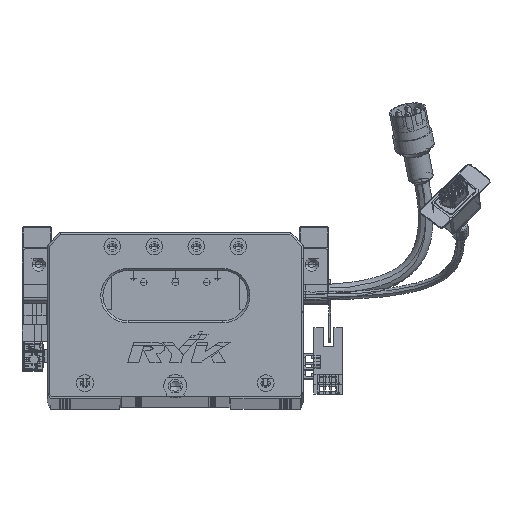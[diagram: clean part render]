
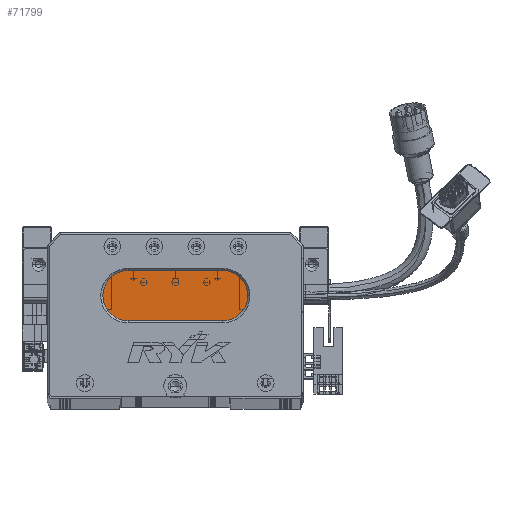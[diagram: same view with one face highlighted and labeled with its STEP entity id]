
A CAD part, top view. The second image highlights one B-rep face of the part: STEP entity #71799.
In plain terms, the highlighted planar face has unit normal (0, 0, 1) as drawn and (0, 0, -1) by its records, which use the part's own axes.
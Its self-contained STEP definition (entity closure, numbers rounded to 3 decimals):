
#1271 = CARTESIAN_POINT ( 'NONE',  ( 38.5, 48., 13. ) ) ;
#2027 = LINE ( 'NONE', #115451, #77333 ) ;
#2405 = EDGE_CURVE ( 'NONE', #71854, #108602, #40213, .T. ) ;
#4062 = DIRECTION ( 'NONE',  ( -1., 0., 0. ) ) ;
#4106 = ORIENTED_EDGE ( 'NONE', *, *, #105122, .T. ) ;
#6809 = ORIENTED_EDGE ( 'NONE', *, *, #43144, .T. ) ;
#9805 = CARTESIAN_POINT ( 'NONE',  ( 83.5, 48., 13. ) ) ;
#11134 = AXIS2_PLACEMENT_3D ( 'NONE', #13145, #14829, #4062 ) ;
#12304 = DIRECTION ( 'NONE',  ( -1., 0., 0. ) ) ;
#13145 = CARTESIAN_POINT ( 'NONE',  ( 38.5, 48., 13. ) ) ;
#13861 = DIRECTION ( 'NONE',  ( 0., 0., -1. ) ) ;
#14284 = CARTESIAN_POINT ( 'NONE',  ( 83.5, 48., 13. ) ) ;
#14829 = DIRECTION ( 'NONE',  ( 0., 0., -1. ) ) ;
#21632 = AXIS2_PLACEMENT_3D ( 'NONE', #14284, #13861, #32735 ) ;
#24610 = CIRCLE ( 'NONE', #99359, 12. ) ;
#31870 = CARTESIAN_POINT ( 'NONE',  ( 26.5, 48., 13. ) ) ;
#32300 = CARTESIAN_POINT ( 'NONE',  ( 83.5, 36., 13. ) ) ;
#32735 = DIRECTION ( 'NONE',  ( -1., 0., 0. ) ) ;
#40213 = LINE ( 'NONE', #51448, #63287 ) ;
#41303 = EDGE_CURVE ( 'NONE', #108602, #92349, #108496, .T. ) ;
#43144 = EDGE_CURVE ( 'NONE', #79063, #94210, #2027, .T. ) ;
#49339 = DIRECTION ( 'NONE',  ( -1., 0., 0. ) ) ;
#51448 = CARTESIAN_POINT ( 'NONE',  ( 83.5, 36., 13. ) ) ;
#53115 = CIRCLE ( 'NONE', #11134, 12. ) ;
#55719 = AXIS2_PLACEMENT_3D ( 'NONE', #1271, #119780, #71312 ) ;
#56279 = DIRECTION ( 'NONE',  ( 1., 0., 0. ) ) ;
#60729 = CARTESIAN_POINT ( 'NONE',  ( 38.5, 36., 13. ) ) ;
#63287 = VECTOR ( 'NONE', #12304, 1000. ) ;
#65675 = EDGE_CURVE ( 'NONE', #94210, #71854, #24610, .T. ) ;
#71312 = DIRECTION ( 'NONE',  ( -1., 0., 0. ) ) ;
#71799 = ADVANCED_FACE ( 'NONE', ( #109354 ), #111753, .T. ) ;
#71854 = VERTEX_POINT ( 'NONE', #32300 ) ;
#71889 = ORIENTED_EDGE ( 'NONE', *, *, #65675, .T. ) ;
#72980 = ORIENTED_EDGE ( 'NONE', *, *, #41303, .T. ) ;
#77333 = VECTOR ( 'NONE', #56279, 1000. ) ;
#79063 = VERTEX_POINT ( 'NONE', #116911 ) ;
#92349 = VERTEX_POINT ( 'NONE', #31870 ) ;
#94210 = VERTEX_POINT ( 'NONE', #119970 ) ;
#97882 = DIRECTION ( 'NONE',  ( 0., 0., -1. ) ) ;
#99359 = AXIS2_PLACEMENT_3D ( 'NONE', #9805, #97882, #49339 ) ;
#105122 = EDGE_CURVE ( 'NONE', #92349, #79063, #53115, .T. ) ;
#106587 = EDGE_LOOP ( 'NONE', ( #71889, #116988, #72980, #4106, #6809 ) ) ;
#108496 = CIRCLE ( 'NONE', #55719, 12. ) ;
#108602 = VERTEX_POINT ( 'NONE', #60729 ) ;
#109354 = FACE_OUTER_BOUND ( 'NONE', #106587, .T. ) ;
#111753 = PLANE ( 'NONE',  #21632 ) ;
#115451 = CARTESIAN_POINT ( 'NONE',  ( 83.5, 60., 13. ) ) ;
#116911 = CARTESIAN_POINT ( 'NONE',  ( 38.5, 60., 13. ) ) ;
#116988 = ORIENTED_EDGE ( 'NONE', *, *, #2405, .T. ) ;
#119780 = DIRECTION ( 'NONE',  ( 0., 0., -1. ) ) ;
#119970 = CARTESIAN_POINT ( 'NONE',  ( 83.5, 60., 13. ) ) ;
